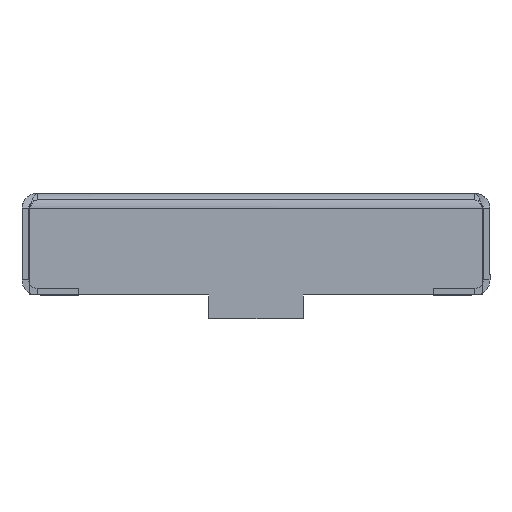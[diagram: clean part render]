
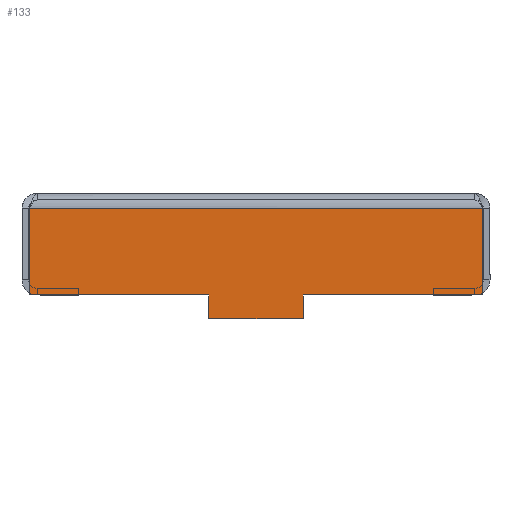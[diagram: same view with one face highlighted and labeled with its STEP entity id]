
A CAD part, left-side view. The second image highlights one B-rep face of the part: STEP entity #133.
In plain terms, the highlighted planar face has unit normal (-1, 0, 0).
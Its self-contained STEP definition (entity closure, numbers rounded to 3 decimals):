
#133=ADVANCED_FACE('',(#1019),#1021,.F.);
#1019=FACE_BOUND('',#1020,.T.);
#1020=EDGE_LOOP('',(#1909,#1910,#1911,#1912,#1913,#1914,#1915,#1916));
#1021=PLANE('',#1022);
#1022=AXIS2_PLACEMENT_3D('',#1023,#1024,#1025);
#1023=CARTESIAN_POINT('',(-340.65,0.,0.));
#1024=DIRECTION('',(1.,0.,0.));
#1025=DIRECTION('',(0.,0.,-1.));
#1909=ORIENTED_EDGE('',*,*,#2376,.F.);
#1910=ORIENTED_EDGE('',*,*,#2381,.T.);
#1911=ORIENTED_EDGE('',*,*,#2331,.F.);
#1912=ORIENTED_EDGE('',*,*,#2382,.T.);
#1913=ORIENTED_EDGE('',*,*,#2383,.T.);
#1914=ORIENTED_EDGE('',*,*,#2384,.T.);
#1915=ORIENTED_EDGE('',*,*,#2385,.F.);
#1916=ORIENTED_EDGE('',*,*,#2380,.F.);
#2331=EDGE_CURVE('',#2708,#2710,#2711,.T.);
#2376=EDGE_CURVE('',#2781,#2773,#2784,.T.);
#2380=EDGE_CURVE('',#2773,#2787,#2790,.T.);
#2381=EDGE_CURVE('',#2781,#2710,#2791,.T.);
#2382=EDGE_CURVE('',#2708,#2792,#2793,.T.);
#2383=EDGE_CURVE('',#2792,#2794,#2795,.T.);
#2384=EDGE_CURVE('',#2794,#2796,#2797,.T.);
#2385=EDGE_CURVE('',#2787,#2796,#2798,.T.);
#2708=VERTEX_POINT('',#3522);
#2710=VERTEX_POINT('',#3526);
#2711=LINE('',#3527,#3528);
#2773=VERTEX_POINT('',#3883);
#2781=VERTEX_POINT('',#4064);
#2784=LINE('',#4127,#4128);
#2787=VERTEX_POINT('',#4134);
#2790=LINE('',#4141,#4142);
#2791=LINE('',#4144,#4145);
#2792=VERTEX_POINT('',#4147);
#2793=LINE('',#4148,#4149);
#2794=VERTEX_POINT('',#4151);
#2795=LINE('',#4152,#4153);
#2796=VERTEX_POINT('',#4155);
#2797=LINE('',#4156,#4157);
#2798=LINE('',#4159,#4160);
#3522=CARTESIAN_POINT('',(-340.65,10.,-21.5));
#3526=CARTESIAN_POINT('',(-340.65,47.923,-21.5));
#3527=CARTESIAN_POINT('',(-340.65,10.,-21.5));
#3528=VECTOR('',#3529,1.);
#3529=DIRECTION('',(0.,1.,0.));
#3883=CARTESIAN_POINT('',(-340.65,-47.923,-3.2));
#4064=CARTESIAN_POINT('',(-340.65,47.923,-3.2));
#4127=CARTESIAN_POINT('',(-340.65,47.923,-3.2));
#4128=VECTOR('',#4129,1.);
#4129=DIRECTION('',(0.,-1.,0.));
#4134=CARTESIAN_POINT('',(-340.65,-47.923,-21.5));
#4141=CARTESIAN_POINT('',(-340.65,-47.923,-3.2));
#4142=VECTOR('',#4143,1.);
#4143=DIRECTION('',(0.,0.,-1.));
#4144=CARTESIAN_POINT('',(-340.65,47.923,-3.2));
#4145=VECTOR('',#4146,1.);
#4146=DIRECTION('',(0.,0.,-1.));
#4147=CARTESIAN_POINT('',(-340.65,10.,-26.5));
#4148=CARTESIAN_POINT('',(-340.65,10.,-21.5));
#4149=VECTOR('',#4150,1.);
#4150=DIRECTION('',(0.,0.,-1.));
#4151=CARTESIAN_POINT('',(-340.65,-10.,-26.5));
#4152=CARTESIAN_POINT('',(-340.65,10.,-26.5));
#4153=VECTOR('',#4154,1.);
#4154=DIRECTION('',(0.,-1.,0.));
#4155=CARTESIAN_POINT('',(-340.65,-10.,-21.5));
#4156=CARTESIAN_POINT('',(-340.65,-10.,-26.5));
#4157=VECTOR('',#4158,1.);
#4158=DIRECTION('',(0.,0.,1.));
#4159=CARTESIAN_POINT('',(-340.65,-47.923,-21.5));
#4160=VECTOR('',#4161,1.);
#4161=DIRECTION('',(0.,1.,0.));
